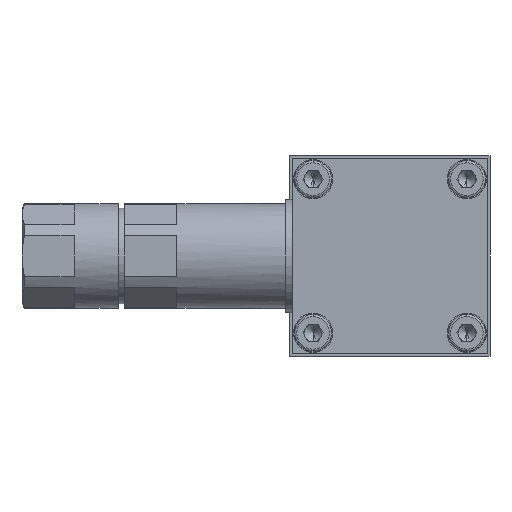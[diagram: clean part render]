
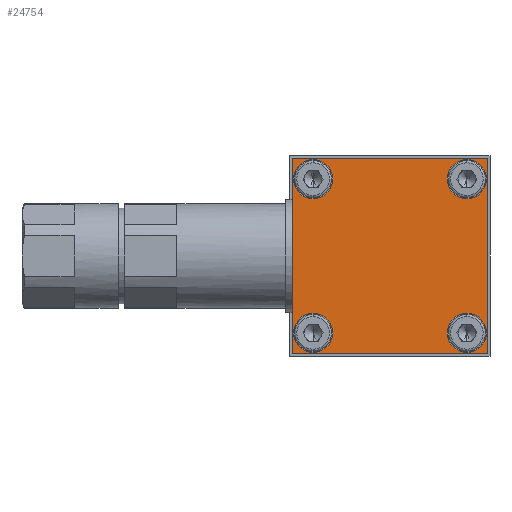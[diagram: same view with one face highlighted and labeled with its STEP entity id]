
A CAD part, left-side view. The second image highlights one B-rep face of the part: STEP entity #24754.
In plain terms, the highlighted planar face has unit normal (-1, 0, 0).
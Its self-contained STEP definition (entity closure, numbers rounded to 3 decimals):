
#183 = EDGE_CURVE ( 'NONE', #56839, #51095, #76355, .T. ) ;
#1510 = PLANE ( 'NONE',  #39115 ) ;
#1615 = ORIENTED_EDGE ( 'NONE', *, *, #60829, .F. ) ;
#1660 = ORIENTED_EDGE ( 'NONE', *, *, #59676, .T. ) ;
#4815 = CARTESIAN_POINT ( 'NONE',  ( -40., 22.5, -22.5 ) ) ;
#5288 = LINE ( 'NONE', #56807, #22690 ) ;
#5291 = DIRECTION ( 'NONE',  ( 0., 0., 1. ) ) ;
#5434 = CARTESIAN_POINT ( 'NONE',  ( -40., 17.68, -17.68 ) ) ;
#7067 = VERTEX_POINT ( 'NONE', #77704 ) ;
#7208 = VERTEX_POINT ( 'NONE', #22746 ) ;
#7354 = FACE_BOUND ( 'NONE', #81512, .T. ) ;
#7721 = LINE ( 'NONE', #60693, #57676 ) ;
#8164 = EDGE_LOOP ( 'NONE', ( #1660, #16592, #1615, #75050 ) ) ;
#8605 = CARTESIAN_POINT ( 'NONE',  ( -40., 17.68, 13.18 ) ) ;
#11321 = AXIS2_PLACEMENT_3D ( 'NONE', #50555, #11538, #57113 ) ;
#11538 = DIRECTION ( 'NONE',  ( -1., 0., 0. ) ) ;
#12030 = DIRECTION ( 'NONE',  ( 0., 0., 1. ) ) ;
#12522 = ORIENTED_EDGE ( 'NONE', *, *, #20038, .F. ) ;
#13239 = EDGE_LOOP ( 'NONE', ( #74862, #18561 ) ) ;
#13952 = DIRECTION ( 'NONE',  ( -1., 0., 0. ) ) ;
#16288 = DIRECTION ( 'NONE',  ( -1., 0., 0. ) ) ;
#16592 = ORIENTED_EDGE ( 'NONE', *, *, #36582, .F. ) ;
#17772 = CARTESIAN_POINT ( 'NONE',  ( -40., 22.5, -22.5 ) ) ;
#18561 = ORIENTED_EDGE ( 'NONE', *, *, #47385, .F. ) ;
#19428 = CIRCLE ( 'NONE', #78231, 4.5 ) ;
#20038 = EDGE_CURVE ( 'NONE', #7067, #7208, #21157, .T. ) ;
#20698 = ORIENTED_EDGE ( 'NONE', *, *, #61630, .F. ) ;
#21157 = CIRCLE ( 'NONE', #33710, 4.5 ) ;
#22690 = VECTOR ( 'NONE', #63346, 1000. ) ;
#22746 = CARTESIAN_POINT ( 'NONE',  ( -40., -17.68, 13.18 ) ) ;
#23016 = AXIS2_PLACEMENT_3D ( 'NONE', #69390, #30396, #75933 ) ;
#23337 = VERTEX_POINT ( 'NONE', #4815 ) ;
#23881 = VERTEX_POINT ( 'NONE', #82569 ) ;
#24338 = DIRECTION ( 'NONE',  ( 0., -1., 0. ) ) ;
#24393 = DIRECTION ( 'NONE',  ( -1., 0., 0. ) ) ;
#24693 = FACE_BOUND ( 'NONE', #32770, .T. ) ;
#24754 = ADVANCED_FACE ( 'NONE', ( #24693, #7354, #59333, #57292, #42001 ), #1510, .F. ) ;
#26274 = DIRECTION ( 'NONE',  ( 0., 0., 1. ) ) ;
#30396 = DIRECTION ( 'NONE',  ( -1., 0., 0. ) ) ;
#30801 = ORIENTED_EDGE ( 'NONE', *, *, #64529, .F. ) ;
#30863 = CIRCLE ( 'NONE', #49772, 4.5 ) ;
#30940 = AXIS2_PLACEMENT_3D ( 'NONE', #83357, #44316, #5291 ) ;
#31111 = CARTESIAN_POINT ( 'NONE',  ( -40., -17.68, 17.68 ) ) ;
#31631 = CARTESIAN_POINT ( 'NONE',  ( -40., 22.5, 22.5 ) ) ;
#32067 = LINE ( 'NONE', #71797, #49367 ) ;
#32440 = CARTESIAN_POINT ( 'NONE',  ( -40., -17.68, -13.18 ) ) ;
#32470 = CIRCLE ( 'NONE', #35826, 4.5 ) ;
#32770 = EDGE_LOOP ( 'NONE', ( #72613, #52771 ) ) ;
#33710 = AXIS2_PLACEMENT_3D ( 'NONE', #31111, #76653, #37617 ) ;
#34287 = DIRECTION ( 'NONE',  ( 1., 0., 0. ) ) ;
#35826 = AXIS2_PLACEMENT_3D ( 'NONE', #55292, #16288, #61847 ) ;
#36582 = EDGE_CURVE ( 'NONE', #83544, #81843, #7721, .T. ) ;
#37099 = CARTESIAN_POINT ( 'NONE',  ( -40., -17.68, -22.18 ) ) ;
#37617 = DIRECTION ( 'NONE',  ( 0., 0., 1. ) ) ;
#38536 = CARTESIAN_POINT ( 'NONE',  ( -40., -22.5, 22.5 ) ) ;
#39115 = AXIS2_PLACEMENT_3D ( 'NONE', #73297, #34287, #79849 ) ;
#39870 = EDGE_CURVE ( 'NONE', #68946, #46358, #32470, .T. ) ;
#41085 = CARTESIAN_POINT ( 'NONE',  ( -40., -22.5, -22.5 ) ) ;
#41800 = ORIENTED_EDGE ( 'NONE', *, *, #183, .F. ) ;
#42001 = FACE_OUTER_BOUND ( 'NONE', #8164, .T. ) ;
#44316 = DIRECTION ( 'NONE',  ( -1., 0., 0. ) ) ;
#46358 = VERTEX_POINT ( 'NONE', #37099 ) ;
#47000 = CARTESIAN_POINT ( 'NONE',  ( -40., 17.68, 22.18 ) ) ;
#47385 = EDGE_CURVE ( 'NONE', #46358, #68946, #30863, .T. ) ;
#47977 = EDGE_CURVE ( 'NONE', #23881, #79303, #19428, .T. ) ;
#48327 = AXIS2_PLACEMENT_3D ( 'NONE', #52937, #13952, #59494 ) ;
#49367 = VECTOR ( 'NONE', #26274, 1000. ) ;
#49772 = AXIS2_PLACEMENT_3D ( 'NONE', #63402, #24393, #69913 ) ;
#50555 = CARTESIAN_POINT ( 'NONE',  ( -40., 17.68, -17.68 ) ) ;
#51039 = DIRECTION ( 'NONE',  ( -1., 0., 0. ) ) ;
#51095 = VERTEX_POINT ( 'NONE', #8605 ) ;
#52771 = ORIENTED_EDGE ( 'NONE', *, *, #47977, .F. ) ;
#52937 = CARTESIAN_POINT ( 'NONE',  ( -40., 17.68, 17.68 ) ) ;
#53368 = EDGE_LOOP ( 'NONE', ( #12522, #30801 ) ) ;
#55262 = LINE ( 'NONE', #17772, #57298 ) ;
#55292 = CARTESIAN_POINT ( 'NONE',  ( -40., -17.68, -17.68 ) ) ;
#56807 = CARTESIAN_POINT ( 'NONE',  ( -40., 22.5, 22.5 ) ) ;
#56839 = VERTEX_POINT ( 'NONE', #47000 ) ;
#57113 = DIRECTION ( 'NONE',  ( 0., 0., 1. ) ) ;
#57292 = FACE_BOUND ( 'NONE', #13239, .T. ) ;
#57298 = VECTOR ( 'NONE', #24338, 1000. ) ;
#57491 = CIRCLE ( 'NONE', #11321, 4.5 ) ;
#57676 = VECTOR ( 'NONE', #67222, 1000. ) ;
#59333 = FACE_BOUND ( 'NONE', #53368, .T. ) ;
#59494 = DIRECTION ( 'NONE',  ( 0., 0., 1. ) ) ;
#59676 = EDGE_CURVE ( 'NONE', #62724, #81843, #32067, .T. ) ;
#59933 = CARTESIAN_POINT ( 'NONE',  ( -40., 17.68, -13.18 ) ) ;
#60693 = CARTESIAN_POINT ( 'NONE',  ( -40., 22.5, 22.5 ) ) ;
#60829 = EDGE_CURVE ( 'NONE', #23337, #83544, #5288, .T. ) ;
#60835 = EDGE_CURVE ( 'NONE', #23337, #62724, #55262, .T. ) ;
#61630 = EDGE_CURVE ( 'NONE', #51095, #56839, #78384, .T. ) ;
#61847 = DIRECTION ( 'NONE',  ( 0., 0., 1. ) ) ;
#62724 = VERTEX_POINT ( 'NONE', #41085 ) ;
#63346 = DIRECTION ( 'NONE',  ( 0., 0., 1. ) ) ;
#63402 = CARTESIAN_POINT ( 'NONE',  ( -40., -17.68, -17.68 ) ) ;
#64529 = EDGE_CURVE ( 'NONE', #7208, #7067, #77707, .T. ) ;
#67222 = DIRECTION ( 'NONE',  ( 0., -1., 0. ) ) ;
#68946 = VERTEX_POINT ( 'NONE', #32440 ) ;
#69302 = EDGE_CURVE ( 'NONE', #79303, #23881, #57491, .T. ) ;
#69390 = CARTESIAN_POINT ( 'NONE',  ( -40., -17.68, 17.68 ) ) ;
#69913 = DIRECTION ( 'NONE',  ( 0., 0., 1. ) ) ;
#71797 = CARTESIAN_POINT ( 'NONE',  ( -40., -22.5, 22.5 ) ) ;
#72613 = ORIENTED_EDGE ( 'NONE', *, *, #69302, .F. ) ;
#73297 = CARTESIAN_POINT ( 'NONE',  ( -40., 22.5, 22.5 ) ) ;
#74862 = ORIENTED_EDGE ( 'NONE', *, *, #39870, .F. ) ;
#75050 = ORIENTED_EDGE ( 'NONE', *, *, #60835, .T. ) ;
#75933 = DIRECTION ( 'NONE',  ( 0., 0., 1. ) ) ;
#76355 = CIRCLE ( 'NONE', #30940, 4.5 ) ;
#76653 = DIRECTION ( 'NONE',  ( -1., 0., 0. ) ) ;
#77704 = CARTESIAN_POINT ( 'NONE',  ( -40., -17.68, 22.18 ) ) ;
#77707 = CIRCLE ( 'NONE', #23016, 4.5 ) ;
#78231 = AXIS2_PLACEMENT_3D ( 'NONE', #5434, #51039, #12030 ) ;
#78384 = CIRCLE ( 'NONE', #48327, 4.5 ) ;
#79303 = VERTEX_POINT ( 'NONE', #59933 ) ;
#79849 = DIRECTION ( 'NONE',  ( 0., 0., -1. ) ) ;
#81512 = EDGE_LOOP ( 'NONE', ( #41800, #20698 ) ) ;
#81843 = VERTEX_POINT ( 'NONE', #38536 ) ;
#82569 = CARTESIAN_POINT ( 'NONE',  ( -40., 17.68, -22.18 ) ) ;
#83357 = CARTESIAN_POINT ( 'NONE',  ( -40., 17.68, 17.68 ) ) ;
#83544 = VERTEX_POINT ( 'NONE', #31631 ) ;
